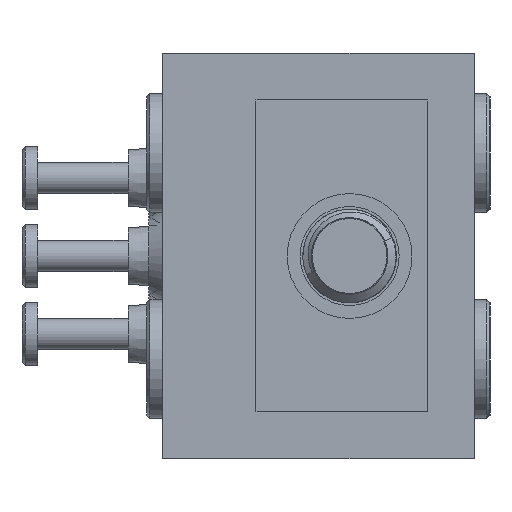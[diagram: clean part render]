
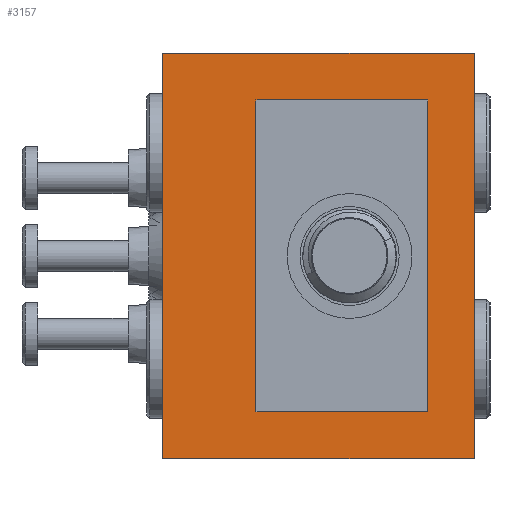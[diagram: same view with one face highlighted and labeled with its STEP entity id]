
A CAD part, left-side view. The second image highlights one B-rep face of the part: STEP entity #3157.
In plain terms, the highlighted planar face has unit normal (-1, 0, 0).
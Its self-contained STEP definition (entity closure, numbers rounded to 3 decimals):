
#242 = VERTEX_POINT ( 'NONE', #10867 ) ;
#306 = CARTESIAN_POINT ( 'NONE',  ( -63.5, 2., -5. ) ) ;
#384 = VERTEX_POINT ( 'NONE', #306 ) ;
#515 = VERTEX_POINT ( 'NONE', #5850 ) ;
#658 = LINE ( 'NONE', #10868, #4653 ) ;
#930 = CARTESIAN_POINT ( 'NONE',  ( -63.5, -3.5, -5. ) ) ;
#1006 = LINE ( 'NONE', #3518, #12471 ) ;
#1132 = ORIENTED_EDGE ( 'NONE', *, *, #16558, .F. ) ;
#1552 = LINE ( 'NONE', #12708, #13532 ) ;
#1969 = CARTESIAN_POINT ( 'NONE',  ( -63.5, 2., -5. ) ) ;
#1980 = VERTEX_POINT ( 'NONE', #4213 ) ;
#2133 = LINE ( 'NONE', #7348, #16685 ) ;
#2221 = EDGE_CURVE ( 'NONE', #2731, #8105, #1006, .T. ) ;
#2731 = VERTEX_POINT ( 'NONE', #19009 ) ;
#2742 = DIRECTION ( 'NONE',  ( 0., -1., 0. ) ) ;
#3057 = DIRECTION ( 'NONE',  ( 0., 0., -1. ) ) ;
#3157 = ADVANCED_FACE ( 'NONE', ( #6159, #14107 ), #7441, .F. ) ;
#3320 = AXIS2_PLACEMENT_3D ( 'NONE', #14905, #8957, #19390 ) ;
#3365 = CARTESIAN_POINT ( 'NONE',  ( -63.5, 5., -6.5 ) ) ;
#3518 = CARTESIAN_POINT ( 'NONE',  ( -63.5, 5., 6.5 ) ) ;
#4213 = CARTESIAN_POINT ( 'NONE',  ( -63.5, -5., -6.5 ) ) ;
#4277 = CARTESIAN_POINT ( 'NONE',  ( -63.5, 5., 6.5 ) ) ;
#4526 = EDGE_CURVE ( 'NONE', #18662, #1980, #4919, .T. ) ;
#4653 = VECTOR ( 'NONE', #15451, 1000. ) ;
#4919 = LINE ( 'NONE', #13551, #14992 ) ;
#4998 = ORIENTED_EDGE ( 'NONE', *, *, #10813, .F. ) ;
#5199 = CARTESIAN_POINT ( 'NONE',  ( -63.5, -3.5, -5. ) ) ;
#5398 = DIRECTION ( 'NONE',  ( 0., 0., 1. ) ) ;
#5794 = ORIENTED_EDGE ( 'NONE', *, *, #6790, .F. ) ;
#5850 = CARTESIAN_POINT ( 'NONE',  ( -63.5, -3.5, 5. ) ) ;
#6159 = FACE_BOUND ( 'NONE', #16585, .T. ) ;
#6790 = EDGE_CURVE ( 'NONE', #242, #384, #17959, .T. ) ;
#7348 = CARTESIAN_POINT ( 'NONE',  ( -63.5, 2., -5. ) ) ;
#7441 = PLANE ( 'NONE',  #3320 ) ;
#8105 = VERTEX_POINT ( 'NONE', #3365 ) ;
#8326 = LINE ( 'NONE', #4277, #11837 ) ;
#8701 = EDGE_CURVE ( 'NONE', #14032, #515, #10212, .T. ) ;
#8919 = EDGE_CURVE ( 'NONE', #2731, #18662, #8326, .T. ) ;
#8957 = DIRECTION ( 'NONE',  ( 1., 0., 0. ) ) ;
#9326 = ORIENTED_EDGE ( 'NONE', *, *, #4526, .F. ) ;
#9855 = ORIENTED_EDGE ( 'NONE', *, *, #2221, .T. ) ;
#10032 = VECTOR ( 'NONE', #16852, 1000. ) ;
#10145 = ORIENTED_EDGE ( 'NONE', *, *, #17312, .T. ) ;
#10212 = LINE ( 'NONE', #930, #14179 ) ;
#10813 = EDGE_CURVE ( 'NONE', #384, #14032, #2133, .T. ) ;
#10867 = CARTESIAN_POINT ( 'NONE',  ( -63.5, 2., 5. ) ) ;
#10868 = CARTESIAN_POINT ( 'NONE',  ( -63.5, 2., 5. ) ) ;
#11837 = VECTOR ( 'NONE', #2742, 1000. ) ;
#12471 = VECTOR ( 'NONE', #12546, 1000. ) ;
#12494 = CARTESIAN_POINT ( 'NONE',  ( -63.5, -5., 6.5 ) ) ;
#12546 = DIRECTION ( 'NONE',  ( 0., 0., -1. ) ) ;
#12708 = CARTESIAN_POINT ( 'NONE',  ( -63.5, 5., -6.5 ) ) ;
#13532 = VECTOR ( 'NONE', #18718, 1000. ) ;
#13551 = CARTESIAN_POINT ( 'NONE',  ( -63.5, -5., 6.5 ) ) ;
#14032 = VERTEX_POINT ( 'NONE', #5199 ) ;
#14107 = FACE_OUTER_BOUND ( 'NONE', #17314, .T. ) ;
#14179 = VECTOR ( 'NONE', #5398, 1000. ) ;
#14905 = CARTESIAN_POINT ( 'NONE',  ( -63.5, 5., 6.5 ) ) ;
#14992 = VECTOR ( 'NONE', #3057, 1000. ) ;
#15451 = DIRECTION ( 'NONE',  ( 0., 1., 0. ) ) ;
#15851 = ORIENTED_EDGE ( 'NONE', *, *, #8919, .F. ) ;
#16558 = EDGE_CURVE ( 'NONE', #515, #242, #658, .T. ) ;
#16585 = EDGE_LOOP ( 'NONE', ( #17319, #4998, #5794, #1132 ) ) ;
#16685 = VECTOR ( 'NONE', #19297, 1000. ) ;
#16852 = DIRECTION ( 'NONE',  ( 0., 0., -1. ) ) ;
#17312 = EDGE_CURVE ( 'NONE', #8105, #1980, #1552, .T. ) ;
#17314 = EDGE_LOOP ( 'NONE', ( #10145, #9326, #15851, #9855 ) ) ;
#17319 = ORIENTED_EDGE ( 'NONE', *, *, #8701, .F. ) ;
#17959 = LINE ( 'NONE', #1969, #10032 ) ;
#18662 = VERTEX_POINT ( 'NONE', #12494 ) ;
#18718 = DIRECTION ( 'NONE',  ( 0., -1., 0. ) ) ;
#19009 = CARTESIAN_POINT ( 'NONE',  ( -63.5, 5., 6.5 ) ) ;
#19297 = DIRECTION ( 'NONE',  ( 0., -1., 0. ) ) ;
#19390 = DIRECTION ( 'NONE',  ( 0., 0., -1. ) ) ;
